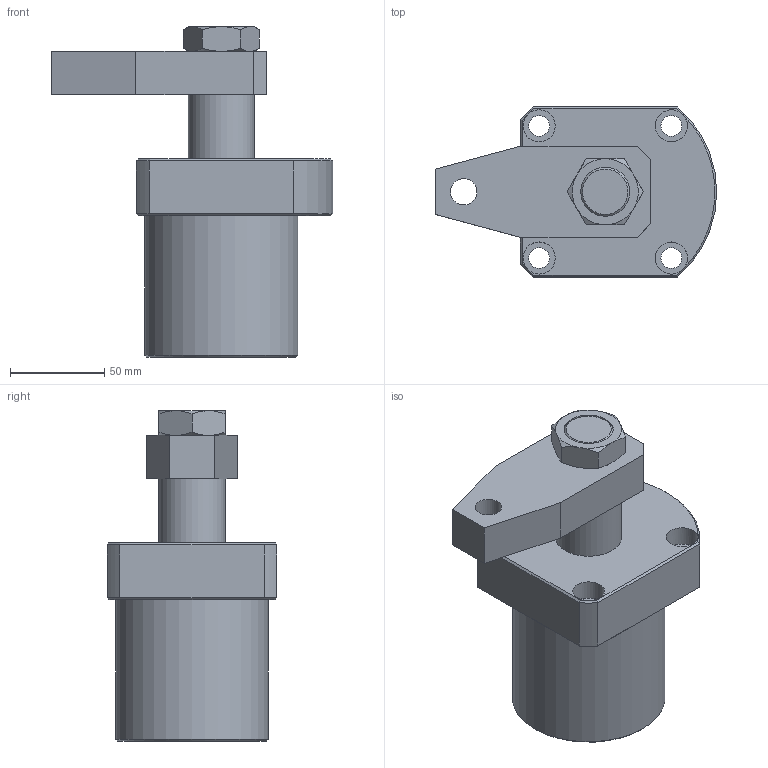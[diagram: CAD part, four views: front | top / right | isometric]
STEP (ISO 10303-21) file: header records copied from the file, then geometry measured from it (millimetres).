
FILE_DESCRIPTION(/* description */ ('Unknown'),/* implementation_level */ '2;1');
FILE_NAME(/* name */ 'HSC-FAM63S-A',/* time_stamp */ '2019-05-23T08:56:59+08:00',/* author */ ('Unknown'),/* organization */ ('Unknown'),/* preprocessor_version */ 'ST-DEVELOPER v16.7',/* originating_system */ 'DEX',/* authorisation */ $);
FILE_SCHEMA (('AUTOMOTIVE_DESIGN {1 0 10303 214 3 1 1}'));
Length unit declared in the file: millimetre
Products named in the file (4): HSC-FAM63S-A; HSC-FAM63S-CYLINDER; HSC-6302-S-AXLE CENTRE; HSC-63S-A
Assembly tree (3 placements, depth 2):
  HSC-FAM63S-A
    HSC-FAM63S-CYLINDER
    HSC-6302-S-AXLE CENTRE
    HSC-63S-A
Bounding box: 149 x 90 x 175 mm (x, y, z)
Volume: 691956.4 mm3; surface area: 110146.8 mm2
Topology: 3 solids, 3 shells, 104 faces, 216 edges, 136 vertices
Faces by surface type: plane 47, cone 28, cylinder 26, torus 3
Full cylindrical faces by diameter (mm): 3.5 x2, 6 x2, 11 x4, 12 x2, 14 x1, 17 x4, 26 x2, 27 x1, 35 x2, 63 x2, 81 x1
Entity records: 2965 total; most frequent: CARTESIAN_POINT 526, DIRECTION 432, ORIENTED_EDGE 336, AXIS2_PLACEMENT_3D 192, FACE_BOUND 172, EDGE_LOOP 170, EDGE_CURVE 168, VERTEX_POINT 126
